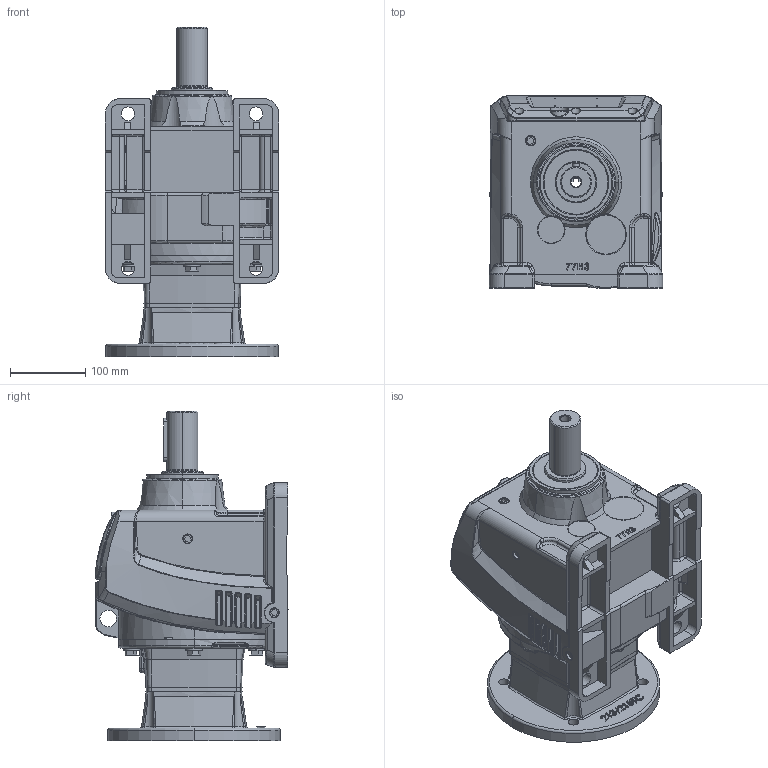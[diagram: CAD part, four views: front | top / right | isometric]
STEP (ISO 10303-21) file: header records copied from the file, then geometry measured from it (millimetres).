
FILE_DESCRIPTION (( 'STEP AP203' ), '1' );
FILE_NAME ('WINL77-213-5TC.STEP', '2013-09-26T09:24:24', ( 'User' ), ( 'Chenta' ), 'SwSTEP 2.0', 'SolidWorks 2011', '' );
FILE_SCHEMA (( 'CONFIG_CONTROL_DESIGN' ));
Products named in the file (1): WINL77-213-5TC
Bounding box: 230 x 255.56 x 437.5 mm (x, y, z)
Surface area: 603244.7 mm2 (no closed solid volume)
Topology: 0 solids, 31 shells, 1324 faces, 3866 edges, 2496 vertices
Faces by surface type: plane 410, bspline 398, cylinder 317, cone 93, torus 77, sphere 29
Entity records: 64820 total; most frequent: CARTESIAN_POINT 33151, ORIENTED_EDGE 6876, DIRECTION 5708, EDGE_CURVE 3849, VERTEX_POINT 2496, AXIS2_PLACEMENT_3D 2085, VECTOR 1538, LINE 1538
